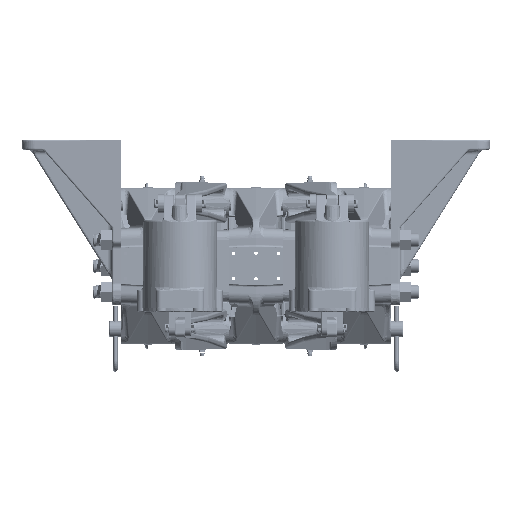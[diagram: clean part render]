
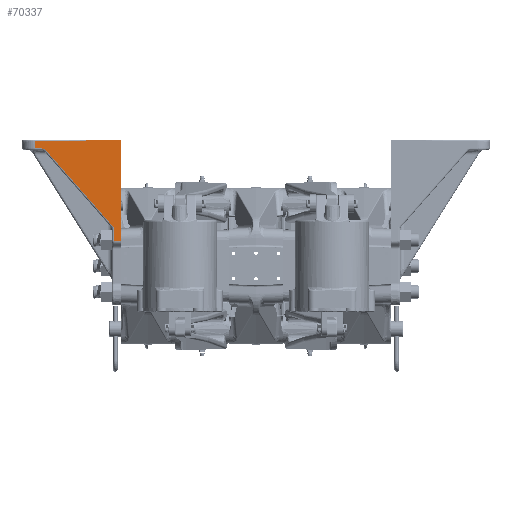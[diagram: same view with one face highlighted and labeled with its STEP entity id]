
A CAD part, left-side view. The second image highlights one B-rep face of the part: STEP entity #70337.
In plain terms, the highlighted planar face has unit normal (-1, 0.018, 0).
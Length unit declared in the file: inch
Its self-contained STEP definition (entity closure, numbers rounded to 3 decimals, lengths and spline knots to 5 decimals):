
#269 = VECTOR ( 'NONE', #247513, 39.37008 ) ;
#5770 = LINE ( 'NONE', #8330, #197676 ) ;
#8330 = CARTESIAN_POINT ( 'NONE',  ( -5.58123, 7.3175, 1.41355 ) ) ;
#10299 = LINE ( 'NONE', #253516, #96134 ) ;
#14695 = VERTEX_POINT ( 'NONE', #239895 ) ;
#18112 = LINE ( 'NONE', #174855, #157778 ) ;
#23849 = EDGE_CURVE ( 'NONE', #14695, #74843, #204465, .T. ) ;
#26162 = ORIENTED_EDGE ( 'NONE', *, *, #198171, .T. ) ;
#33957 = ORIENTED_EDGE ( 'NONE', *, *, #87560, .T. ) ;
#43966 = VERTEX_POINT ( 'NONE', #248163 ) ;
#46386 = ORIENTED_EDGE ( 'NONE', *, *, #105583, .F. ) ;
#53801 = VECTOR ( 'NONE', #103368, 39.37008 ) ;
#55792 = LINE ( 'NONE', #193028, #269 ) ;
#56041 = VERTEX_POINT ( 'NONE', #206541 ) ;
#58169 = ORIENTED_EDGE ( 'NONE', *, *, #23849, .F. ) ;
#59740 = DIRECTION ( 'NONE',  ( -0.012, -0.661, -0.75 ) ) ;
#69352 = DIRECTION ( 'NONE',  ( -0.017, -1., 0. ) ) ;
#70337 = ADVANCED_FACE ( 'NONE', ( #135574 ), #215871, .T. ) ;
#71289 = DIRECTION ( 'NONE',  ( 0.017, 1., -0.017 ) ) ;
#72255 = DIRECTION ( 'NONE',  ( 0., 0., -1. ) ) ;
#74843 = VERTEX_POINT ( 'NONE', #149477 ) ;
#75819 = VERTEX_POINT ( 'NONE', #251607 ) ;
#76613 = LINE ( 'NONE', #155486, #137009 ) ;
#77010 = VERTEX_POINT ( 'NONE', #162137 ) ;
#82430 = DIRECTION ( 'NONE',  ( -0.017, -1., 0. ) ) ;
#87560 = EDGE_CURVE ( 'NONE', #247607, #75819, #10299, .T. ) ;
#87748 = EDGE_CURVE ( 'NONE', #187950, #77010, #126310, .T. ) ;
#89991 = DIRECTION ( 'NONE',  ( 0., 0., -1. ) ) ;
#91632 = CARTESIAN_POINT ( 'NONE',  ( -5.57796, 7.505, 7.11 ) ) ;
#96134 = VECTOR ( 'NONE', #71289, 39.37008 ) ;
#103368 = DIRECTION ( 'NONE',  ( 0., 0., -1. ) ) ;
#105583 = EDGE_CURVE ( 'NONE', #247607, #14695, #55792, .T. ) ;
#126310 = LINE ( 'NONE', #168958, #141606 ) ;
#135574 = FACE_OUTER_BOUND ( 'NONE', #256275, .T. ) ;
#137009 = VECTOR ( 'NONE', #234708, 39.37008 ) ;
#141606 = VECTOR ( 'NONE', #89991, 39.37008 ) ;
#146696 = CARTESIAN_POINT ( 'NONE',  ( -5.58123, 7.3175, 7.11 ) ) ;
#149477 = CARTESIAN_POINT ( 'NONE',  ( -5.57796, 7.505, 1.41355 ) ) ;
#155486 = CARTESIAN_POINT ( 'NONE',  ( -5.50291, 11.80418, 6.5263 ) ) ;
#157778 = VECTOR ( 'NONE', #59740, 39.37008 ) ;
#158347 = AXIS2_PLACEMENT_3D ( 'NONE', #146696, #160029, #82430 ) ;
#160029 = DIRECTION ( 'NONE',  ( -1., 0.017, 0. ) ) ;
#162137 = CARTESIAN_POINT ( 'NONE',  ( -5.57094, 7.90675, 1.41355 ) ) ;
#162872 = LINE ( 'NONE', #198024, #53801 ) ;
#168958 = CARTESIAN_POINT ( 'NONE',  ( -5.57094, 7.90675, 1.41355 ) ) ;
#174855 = CARTESIAN_POINT ( 'NONE',  ( -5.57052, 7.93094, 2.17523 ) ) ;
#187950 = VERTEX_POINT ( 'NONE', #208249 ) ;
#191803 = ORIENTED_EDGE ( 'NONE', *, *, #196798, .T. ) ;
#193028 = CARTESIAN_POINT ( 'NONE',  ( -5.58123, 7.3175, 6.9875 ) ) ;
#195488 = CARTESIAN_POINT ( 'NONE',  ( -5.55871, 8.6074, 6.9875 ) ) ;
#196798 = EDGE_CURVE ( 'NONE', #43966, #56041, #76613, .T. ) ;
#197676 = VECTOR ( 'NONE', #69352, 39.37008 ) ;
#198024 = CARTESIAN_POINT ( 'NONE',  ( -5.49482, 12.26809, 6.44728 ) ) ;
#198171 = EDGE_CURVE ( 'NONE', #56041, #187950, #18112, .T. ) ;
#204465 = LINE ( 'NONE', #91632, #237827 ) ;
#206541 = CARTESIAN_POINT ( 'NONE',  ( -5.50365, 11.76179, 6.52556 ) ) ;
#208249 = CARTESIAN_POINT ( 'NONE',  ( -5.57094, 7.90675, 2.14775 ) ) ;
#209050 = ORIENTED_EDGE ( 'NONE', *, *, #243713, .T. ) ;
#215871 = PLANE ( 'NONE',  #158347 ) ;
#222417 = EDGE_CURVE ( 'NONE', #75819, #43966, #162872, .T. ) ;
#234708 = DIRECTION ( 'NONE',  ( -0.017, -1., -0.017 ) ) ;
#237827 = VECTOR ( 'NONE', #72255, 39.37008 ) ;
#239057 = ORIENTED_EDGE ( 'NONE', *, *, #222417, .T. ) ;
#239895 = CARTESIAN_POINT ( 'NONE',  ( -5.57796, 7.505, 6.9875 ) ) ;
#243713 = EDGE_CURVE ( 'NONE', #77010, #74843, #5770, .T. ) ;
#247513 = DIRECTION ( 'NONE',  ( -0.017, -1., 0. ) ) ;
#247607 = VERTEX_POINT ( 'NONE', #195488 ) ;
#248163 = CARTESIAN_POINT ( 'NONE',  ( -5.49482, 12.26809, 6.5344 ) ) ;
#250472 = ORIENTED_EDGE ( 'NONE', *, *, #87748, .T. ) ;
#251607 = CARTESIAN_POINT ( 'NONE',  ( -5.49482, 12.26809, 6.9236 ) ) ;
#253516 = CARTESIAN_POINT ( 'NONE',  ( -5.58126, 7.31576, 7.01005 ) ) ;
#256275 = EDGE_LOOP ( 'NONE', ( #58169, #46386, #33957, #239057, #191803, #26162, #250472, #209050 ) ) ;
